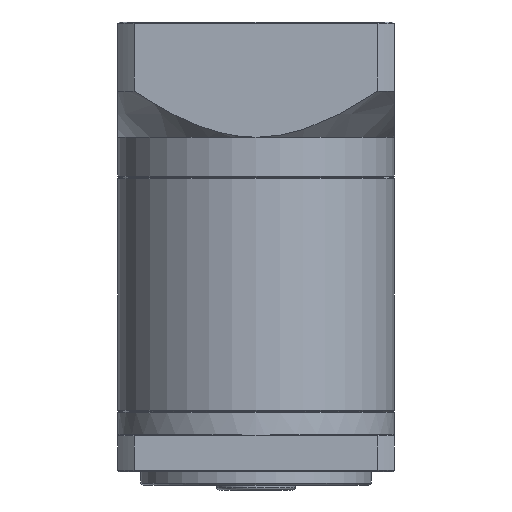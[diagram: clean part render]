
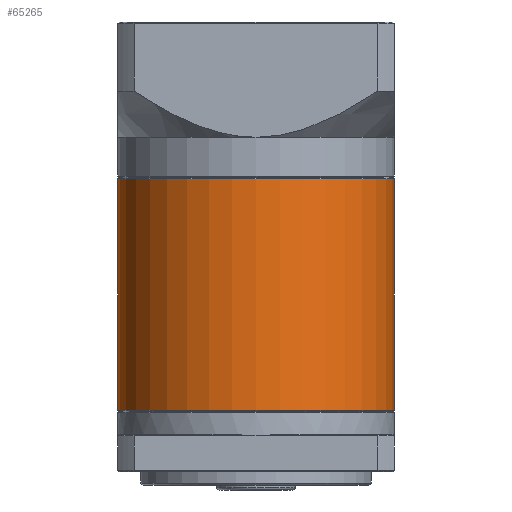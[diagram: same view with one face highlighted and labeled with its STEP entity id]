
A CAD part, front view. The second image highlights one B-rep face of the part: STEP entity #65265.
In plain terms, the highlighted cylindrical face has radius 30 mm (diameter 60 mm), a partial arc.
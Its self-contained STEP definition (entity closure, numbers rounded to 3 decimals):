
#214 = DIRECTION ( 'NONE',  ( 1., 0., 0. ) ) ;
#7984 = CARTESIAN_POINT ( 'NONE',  ( -68.108, 29.245, 3.439 ) ) ;
#17642 = AXIS2_PLACEMENT_3D ( 'NONE', #82697, #41536, #214 ) ;
#17657 = CARTESIAN_POINT ( 'NONE',  ( -68.108, 29.245, -47.111 ) ) ;
#17880 = FACE_OUTER_BOUND ( 'NONE', #58002, .T. ) ;
#18139 = ORIENTED_EDGE ( 'NONE', *, *, #73187, .F. ) ;
#19518 = AXIS2_PLACEMENT_3D ( 'NONE', #17657, #65876, #24553 ) ;
#21239 = CARTESIAN_POINT ( 'NONE',  ( -38.108, 29.245, 3.189 ) ) ;
#22301 = CARTESIAN_POINT ( 'NONE',  ( -98.108, 29.245, 3.189 ) ) ;
#22524 = LINE ( 'NONE', #43839, #73191 ) ;
#24553 = DIRECTION ( 'NONE',  ( 1., 0., 0. ) ) ;
#27251 = CARTESIAN_POINT ( 'NONE',  ( -98.108, 29.245, 3.439 ) ) ;
#28433 = VECTOR ( 'NONE', #89257, 1000. ) ;
#35633 = VERTEX_POINT ( 'NONE', #47509 ) ;
#38798 = VERTEX_POINT ( 'NONE', #65111 ) ;
#40685 = VERTEX_POINT ( 'NONE', #21239 ) ;
#41536 = DIRECTION ( 'NONE',  ( 0., 0., -1. ) ) ;
#43839 = CARTESIAN_POINT ( 'NONE',  ( -38.108, 29.245, 3.439 ) ) ;
#47509 = CARTESIAN_POINT ( 'NONE',  ( -38.108, 29.245, -47.111 ) ) ;
#47796 = EDGE_CURVE ( 'NONE', #40685, #49634, #67563, .T. ) ;
#48614 = EDGE_CURVE ( 'NONE', #38798, #35633, #54032, .T. ) ;
#49634 = VERTEX_POINT ( 'NONE', #22301 ) ;
#50772 = DIRECTION ( 'NONE',  ( 0., 0., -1. ) ) ;
#54032 = CIRCLE ( 'NONE', #19518, 30. ) ;
#56821 = DIRECTION ( 'NONE',  ( -1., 0., 0. ) ) ;
#57470 = EDGE_CURVE ( 'NONE', #49634, #38798, #83315, .T. ) ;
#58002 = EDGE_LOOP ( 'NONE', ( #18139, #60691, #76363, #63162 ) ) ;
#60691 = ORIENTED_EDGE ( 'NONE', *, *, #47796, .T. ) ;
#63162 = ORIENTED_EDGE ( 'NONE', *, *, #48614, .T. ) ;
#65111 = CARTESIAN_POINT ( 'NONE',  ( -98.108, 29.245, -47.111 ) ) ;
#65265 = ADVANCED_FACE ( 'NONE', ( #17880 ), #82397, .T. ) ;
#65876 = DIRECTION ( 'NONE',  ( 0., 0., 1. ) ) ;
#67563 = CIRCLE ( 'NONE', #17642, 30. ) ;
#70341 = DIRECTION ( 'NONE',  ( 0., 0., -1. ) ) ;
#71973 = AXIS2_PLACEMENT_3D ( 'NONE', #7984, #70341, #56821 ) ;
#73187 = EDGE_CURVE ( 'NONE', #40685, #35633, #22524, .T. ) ;
#73191 = VECTOR ( 'NONE', #50772, 1000. ) ;
#76363 = ORIENTED_EDGE ( 'NONE', *, *, #57470, .T. ) ;
#82397 = CYLINDRICAL_SURFACE ( 'NONE', #71973, 30. ) ;
#82697 = CARTESIAN_POINT ( 'NONE',  ( -68.108, 29.245, 3.189 ) ) ;
#83315 = LINE ( 'NONE', #27251, #28433 ) ;
#89257 = DIRECTION ( 'NONE',  ( 0., 0., -1. ) ) ;
